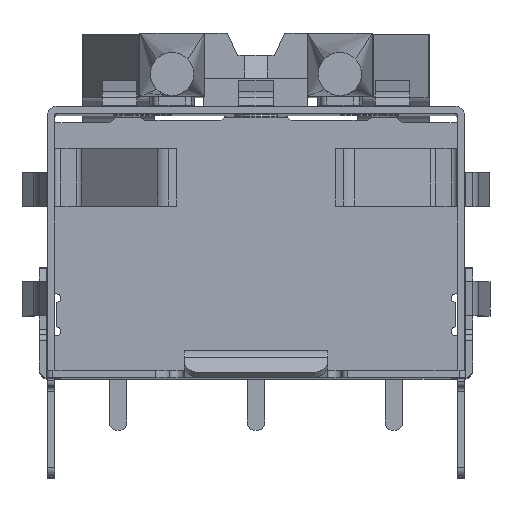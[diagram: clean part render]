
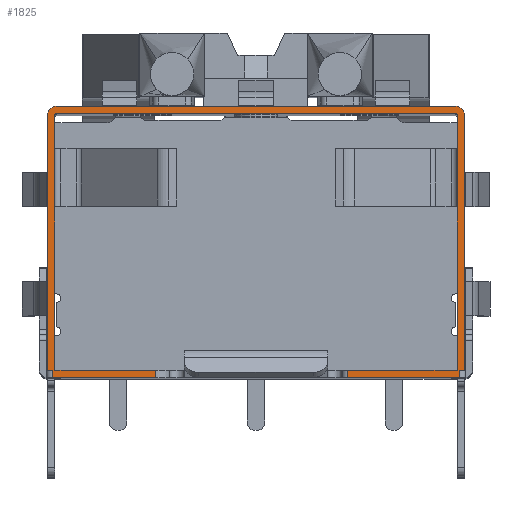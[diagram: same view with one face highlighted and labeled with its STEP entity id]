
A CAD part, top view. The second image highlights one B-rep face of the part: STEP entity #1825.
In plain terms, the highlighted planar face has unit normal (0, 0, 1).
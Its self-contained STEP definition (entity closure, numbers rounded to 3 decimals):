
#627=PLANE('',#23227);
#1825=ADVANCED_FACE('',(#3331),#627,.F.);
#3331=FACE_OUTER_BOUND('',#4488,.T.);
#4488=EDGE_LOOP('',(#14750,#14751,#14752,#14753,#14754,#14755,#14756,#14757,
#14758,#14759,#14760,#14761,#14762,#14763,#14764,#14765,#14766,#14767,#14768,
#14769));
#4605=LINE('',#30016,#6744);
#4672=LINE('',#30200,#6811);
#4892=LINE('',#30886,#7031);
#4975=LINE('',#31102,#7114);
#5103=LINE('',#31488,#7242);
#5161=LINE('',#31718,#7300);
#5451=LINE('',#32447,#7590);
#5751=LINE('',#33092,#7890);
#6556=LINE('',#36077,#8695);
#6607=LINE('',#36227,#8746);
#6630=LINE('',#36298,#8769);
#6631=LINE('',#36299,#8770);
#6632=LINE('',#36300,#8771);
#6633=LINE('',#36302,#8772);
#6634=LINE('',#36303,#8773);
#6635=LINE('',#36305,#8774);
#6744=VECTOR('',#23670,1.);
#6811=VECTOR('',#23791,1.);
#7031=VECTOR('',#24283,1.);
#7114=VECTOR('',#24428,1.);
#7242=VECTOR('',#24704,1.);
#7300=VECTOR('',#24886,1.);
#7590=VECTOR('',#25698,1.);
#7890=VECTOR('',#26576,1.);
#8695=VECTOR('',#29067,1.);
#8746=VECTOR('',#29222,1.);
#8769=VECTOR('',#29307,1.);
#8770=VECTOR('',#29308,1.);
#8771=VECTOR('',#29309,1.);
#8772=VECTOR('',#29310,1.);
#8773=VECTOR('',#29311,1.);
#8774=VECTOR('',#29312,1.);
#14750=ORIENTED_EDGE('',*,*,#20238,.F.);
#14751=ORIENTED_EDGE('',*,*,#18103,.T.);
#14752=ORIENTED_EDGE('',*,*,#18442,.T.);
#14753=ORIENTED_EDGE('',*,*,#18221,.F.);
#14754=ORIENTED_EDGE('',*,*,#18681,.T.);
#14755=ORIENTED_EDGE('',*,*,#17359,.F.);
#14756=ORIENTED_EDGE('',*,*,#20239,.F.);
#14757=ORIENTED_EDGE('',*,*,#20124,.T.);
#14758=ORIENTED_EDGE('',*,*,#20240,.T.);
#14759=ORIENTED_EDGE('',*,*,#20241,.T.);
#14760=ORIENTED_EDGE('',*,*,#18906,.F.);
#14761=ORIENTED_EDGE('',*,*,#17905,.T.);
#14762=ORIENTED_EDGE('',*,*,#18680,.F.);
#14763=ORIENTED_EDGE('',*,*,#17451,.T.);
#14764=ORIENTED_EDGE('',*,*,#18441,.F.);
#14765=ORIENTED_EDGE('',*,*,#17796,.F.);
#14766=ORIENTED_EDGE('',*,*,#18586,.T.);
#14767=ORIENTED_EDGE('',*,*,#20242,.T.);
#14768=ORIENTED_EDGE('',*,*,#20243,.T.);
#14769=ORIENTED_EDGE('',*,*,#20198,.T.);
#15289=VERTEX_POINT('',#30015);
#15290=VERTEX_POINT('',#30017);
#15379=VERTEX_POINT('',#30199);
#15380=VERTEX_POINT('',#30201);
#15709=VERTEX_POINT('',#30885);
#15710=VERTEX_POINT('',#30887);
#15811=VERTEX_POINT('',#31101);
#15812=VERTEX_POINT('',#31103);
#15995=VERTEX_POINT('',#31487);
#15996=VERTEX_POINT('',#31489);
#16105=VERTEX_POINT('',#31717);
#16106=VERTEX_POINT('',#31719);
#16275=VERTEX_POINT('',#32446);
#16332=VERTEX_POINT('',#33093);
#17071=VERTEX_POINT('',#36074);
#17072=VERTEX_POINT('',#36076);
#17119=VERTEX_POINT('',#36226);
#17120=VERTEX_POINT('',#36228);
#17137=VERTEX_POINT('',#36301);
#17138=VERTEX_POINT('',#36304);
#17359=EDGE_CURVE('',#15289,#15290,#4605,.T.);
#17451=EDGE_CURVE('',#15380,#15379,#4672,.T.);
#17796=EDGE_CURVE('',#15709,#15710,#4892,.T.);
#17905=EDGE_CURVE('',#15812,#15811,#4975,.T.);
#18103=EDGE_CURVE('',#15996,#15995,#5103,.T.);
#18221=EDGE_CURVE('',#16105,#16106,#5161,.T.);
#18441=EDGE_CURVE('',#15710,#15379,#20768,.T.);
#18442=EDGE_CURVE('',#15995,#16106,#20769,.T.);
#18586=EDGE_CURVE('',#15709,#16275,#5451,.T.);
#18680=EDGE_CURVE('',#15380,#15811,#20789,.T.);
#18681=EDGE_CURVE('',#16105,#15290,#20790,.T.);
#18906=EDGE_CURVE('',#15812,#16332,#5751,.T.);
#20124=EDGE_CURVE('',#17071,#17072,#6556,.T.);
#20198=EDGE_CURVE('',#17120,#17119,#6607,.T.);
#20238=EDGE_CURVE('',#15996,#17119,#6630,.T.);
#20239=EDGE_CURVE('',#17071,#15289,#6631,.T.);
#20240=EDGE_CURVE('',#17072,#17137,#6632,.T.);
#20241=EDGE_CURVE('',#17137,#16332,#6633,.T.);
#20242=EDGE_CURVE('',#16275,#17138,#6634,.T.);
#20243=EDGE_CURVE('',#17138,#17120,#6635,.T.);
#20768=CIRCLE('',#21905,0.3);
#20769=CIRCLE('',#21907,0.05);
#20789=CIRCLE('',#22108,0.3);
#20790=CIRCLE('',#22110,0.05);
#21905=AXIS2_PLACEMENT_3D('',#32157,#25358,#25359);
#21907=AXIS2_PLACEMENT_3D('',#32159,#25362,#25363);
#22108=AXIS2_PLACEMENT_3D('',#32635,#25982,#25983);
#22110=AXIS2_PLACEMENT_3D('',#32637,#25986,#25987);
#23227=AXIS2_PLACEMENT_3D('',#36306,#29313,#29314);
#23670=DIRECTION('',(0.,1.,0.));
#23791=DIRECTION('',(-1.,0.,0.));
#24283=DIRECTION('',(0.,1.,0.));
#24428=DIRECTION('',(0.,1.,0.));
#24704=DIRECTION('',(0.,1.,0.));
#24886=DIRECTION('',(-1.,0.,0.));
#25358=DIRECTION('',(0.,0.,-1.));
#25359=DIRECTION('',(-1.,0.,0.));
#25362=DIRECTION('',(0.,0.,-1.));
#25363=DIRECTION('',(1.,0.,0.));
#25698=DIRECTION('',(1.,0.,0.));
#25982=DIRECTION('',(0.,0.,-1.));
#25983=DIRECTION('',(0.,1.,0.));
#25986=DIRECTION('',(0.,0.,-1.));
#25987=DIRECTION('',(0.,1.,0.));
#26576=DIRECTION('',(-1.,0.,0.));
#29067=DIRECTION('',(0.,-1.,0.));
#29222=DIRECTION('',(0.,1.,0.));
#29307=DIRECTION('',(1.,0.,0.));
#29308=DIRECTION('',(1.,0.,0.));
#29309=DIRECTION('',(1.,0.,0.));
#29310=DIRECTION('',(0.,1.,0.));
#29311=DIRECTION('',(0.,-1.,0.));
#29312=DIRECTION('',(1.,0.,0.));
#29313=DIRECTION('',(0.,0.,-1.));
#29314=DIRECTION('',(1.,0.,0.));
#30015=CARTESIAN_POINT('',(7.,-8.95,0.));
#30016=CARTESIAN_POINT('',(7.,0.,0.));
#30017=CARTESIAN_POINT('',(7.,-0.05,0.));
#30199=CARTESIAN_POINT('',(-6.95,0.25,0.));
#30200=CARTESIAN_POINT('',(7.25,0.25,0.));
#30201=CARTESIAN_POINT('',(6.95,0.25,0.));
#30885=CARTESIAN_POINT('',(-7.25,-8.95,0.));
#30886=CARTESIAN_POINT('',(-7.25,0.,0.));
#30887=CARTESIAN_POINT('',(-7.25,-0.05,0.));
#31101=CARTESIAN_POINT('',(7.25,-0.05,0.));
#31102=CARTESIAN_POINT('',(7.25,0.,0.));
#31103=CARTESIAN_POINT('',(7.25,-8.95,0.));
#31487=CARTESIAN_POINT('',(-7.,-0.05,0.));
#31488=CARTESIAN_POINT('',(-7.,0.,0.));
#31489=CARTESIAN_POINT('',(-7.,-8.95,0.));
#31717=CARTESIAN_POINT('',(6.95,0.,0.));
#31718=CARTESIAN_POINT('',(7.25,0.,0.));
#31719=CARTESIAN_POINT('',(-6.95,0.,0.));
#32157=CARTESIAN_POINT('',(-6.95,-0.05,0.));
#32159=CARTESIAN_POINT('',(-6.95,-0.05,0.));
#32446=CARTESIAN_POINT('',(-7.1,-8.95,0.));
#32447=CARTESIAN_POINT('',(-7.25,-8.95,0.));
#32635=CARTESIAN_POINT('',(6.95,-0.05,0.));
#32637=CARTESIAN_POINT('',(6.95,-0.05,0.));
#33092=CARTESIAN_POINT('',(7.25,-8.95,0.));
#33093=CARTESIAN_POINT('',(7.1,-8.95,0.));
#36074=CARTESIAN_POINT('',(3.2,-8.95,0.));
#36076=CARTESIAN_POINT('',(3.2,-9.2,0.));
#36077=CARTESIAN_POINT('',(3.2,-8.95,0.));
#36226=CARTESIAN_POINT('',(-3.5,-8.95,0.));
#36227=CARTESIAN_POINT('',(-3.5,-8.95,0.));
#36228=CARTESIAN_POINT('',(-3.5,-9.2,0.));
#36298=CARTESIAN_POINT('',(-10.4,-8.95,0.));
#36299=CARTESIAN_POINT('',(-10.4,-8.95,0.));
#36300=CARTESIAN_POINT('',(-10.4,-9.2,0.));
#36301=CARTESIAN_POINT('',(7.1,-9.2,0.));
#36302=CARTESIAN_POINT('',(7.1,-8.95,0.));
#36303=CARTESIAN_POINT('',(-7.1,-8.95,0.));
#36304=CARTESIAN_POINT('',(-7.1,-9.2,0.));
#36305=CARTESIAN_POINT('',(-10.4,-9.2,0.));
#36306=CARTESIAN_POINT('',(-10.4,-8.95,0.));
